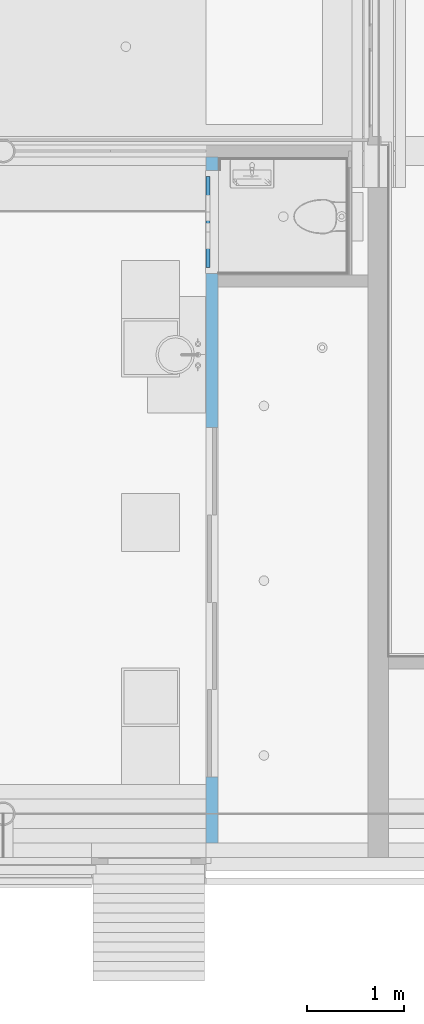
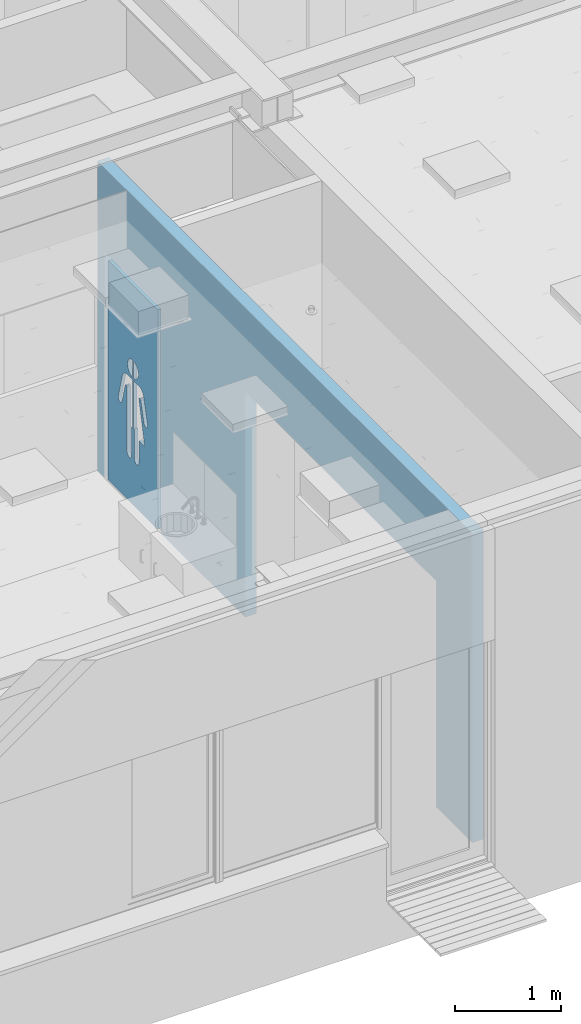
# One storey, part 44 of 347: 1 building element part, 2 openings, 1 element without a shape of its own, plus 1 element that does not belong to this part.
"""IFC2X3 building model written with IfcOpenShell, lengths in millimetres."""

from ifc_helpers import new_model, entity, si_unit, converted_unit, derived_unit, money_unit, direction, frame, origin_with_axes, place, context, subcontext, project, spatial, faceted_brep, source, transform, mapped, material, type_object, element, fill, aggregate, save


model = new_model("IFC2X3")

# Units and contexts
model_context = context("Model", 3, precision=0.01, world=origin_with_axes(), true_north=direction((0.0, 1.0)))
plan_context = context("Plan", 3, precision=0.01, world=origin_with_axes(), true_north=direction((0.0, 1.0)))
body_context = subcontext(model_context, "Body", "Model", "MODEL_VIEW")
ifc_project = project(units=[si_unit("LENGTHUNIT", "METRE", prefix="MILLI"), si_unit("AREAUNIT", "SQUARE_METRE"), si_unit("VOLUMEUNIT", "CUBIC_METRE"), converted_unit("PLANEANGLEUNIT", "DEGREE", entity("IfcPlaneAngleMeasure", 0.0174532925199), si_unit("PLANEANGLEUNIT", "RADIAN"), dimensions=[0, 0, 0, 0, 0, 0, 0]), money_unit("EUR"), converted_unit("TIMEUNIT", "Year", entity("IfcTimeMeasure", 31556926.0), si_unit("TIMEUNIT", "SECOND"), dimensions=[0, 0, 1, 0, 0, 0, 0]), si_unit("MASSUNIT", "GRAM", prefix="KILO"), si_unit("THERMODYNAMICTEMPERATUREUNIT", "DEGREE_CELSIUS"), si_unit("LUMINOUSINTENSITYUNIT", "LUMEN"), si_unit("ENERGYUNIT", "JOULE", prefix="MEGA"), derived_unit("THERMALCONDUCTANCEUNIT", [(si_unit("POWERUNIT", "WATT"), 1), (si_unit("LENGTHUNIT", "METRE"), -1), (si_unit("THERMODYNAMICTEMPERATUREUNIT", "KELVIN"), -1)]), derived_unit("SPECIFICHEATCAPACITYUNIT", [(si_unit("ENERGYUNIT", "JOULE"), 1), (si_unit("MASSUNIT", "GRAM", prefix="KILO"), -1), (si_unit("THERMODYNAMICTEMPERATUREUNIT", "KELVIN"), -1)]), derived_unit("MASSDENSITYUNIT", [(si_unit("MASSUNIT", "GRAM", prefix="KILO"), 1), (si_unit("VOLUMEUNIT", "CUBIC_METRE"), -1)])], contexts=[model_context, plan_context])

# Site, building, storey
site_placement = place(None, origin_with_axes())
site = spatial("IfcSite", under=ifc_project, at=site_placement, Name="Site", CompositionType="ELEMENT")
building_placement = place(site_placement, origin_with_axes())
building = spatial("IfcBuilding", under=site, at=building_placement, Name="Naam gebouw", CompositionType="ELEMENT")
storey_placement = place(building_placement, origin_with_axes())
storey = spatial("IfcBuildingStorey", under=building, at=storey_placement, Name="begane grond", CompositionType="ELEMENT", Elevation=0.0)

# Wall, openings, door, building element part
ifc_material_1 = material(Name="ALG - LICHTE SCHEIDINGSWAND")
wall_type = type_object("IfcWallType", Name="ALG LSW 125 125", PredefinedType="NOTDEFINED")
wall_placement = place(storey_placement, frame((33825.0, 12125.0, 0.0), z_axis=(0.0, 0.0, 1.0), x_axis=(0.0, -1.0, 0.0)))
wall = element("IfcWall", 1, at=wall_placement, inside=storey, type_object=wall_type, material=ifc_material_1, Name="22_GF 125 ECO DGS/2.75.3A", context=body_context, shape_type="Brep", body=[
    faceted_brep([(6447.5, 125.0, 0.0), (6447.5, 125.0, 2600.0), (2847.5, 125.0, 2600.0), (2847.5, 125.0, 0.0), (1262.5, 125.0, 0.0), (1262.5, 125.0, 2600.0), (198.5, 125.0, 2600.0), (198.5, 125.0, 0.0), (62.5, 125.0, 0.0), (62.5, 125.0, 3560.0), (7125.00000245, 125.0, 3559.99997586), (7125.00000245, 125.0, 0.0), (6447.5, 0.0, 0.0), (6447.5, 0.0, 2600.0), (2847.5, 0.0, 2600.0), (2847.5, 0.0, 0.0), (1262.5, 0.0, 0.0), (1262.5, 0.0, 2600.0), (198.5, 0.0, 2600.0), (198.5, 0.0, 0.0), (62.5, 0.0, 0.0), (62.5, 0.0, 3560.0), (7125.00000221, 0.0, 3559.99997586), (7125.00000221, 0.0, 0.0)], [[[0, 1, 2, 3, 4, 5, 6, 7, 8, 9, 10, 11]], [[1, 0, 12, 13]], [[2, 1, 13, 14]], [[3, 2, 14, 15]], [[3, 15, 16, 4]], [[4, 16, 17, 5]], [[5, 17, 18, 6]], [[6, 18, 19, 7]], [[19, 20, 8, 7]], [[9, 8, 20, 21]], [[10, 9, 21, 22]], [[22, 23, 11, 10]], [[12, 0, 11, 23]], [[13, 12, 23, 22, 21, 20, 19, 18, 17, 16, 15, 14]]]),
])
opening_1_placement = place(wall_placement, frame((730.5, 0.0, 0.0), z_axis=(0.0, 0.0, 1.0), x_axis=(1.0, 0.0, 0.0)))
opening_1 = element("IfcOpeningElement", 2, at=opening_1_placement, cuts=wall, Name="32_02.05", context=body_context, shape_type="Brep", body=[
    faceted_brep([(-532.0, 125.0, 2600.0), (-532.0, 125.0, 0.0), (-532.0, -257.0, 0.0), (-532.0, -257.0, 2600.0), (532.0, 125.0, 2600.0), (532.0, 125.0, 0.0), (532.0, -257.0, 0.0), (532.0, -257.0, 2600.0)], [[[0, 1, 2, 3]], [[0, 4, 5, 1]], [[1, 5, 6, 2]], [[3, 2, 6, 7]], [[4, 0, 3, 7]], [[5, 4, 7, 6]]]),
])
opening_2_placement = place(wall_placement, frame((4647.5, 0.0, 0.0), z_axis=(0.0, 0.0, 1.0), x_axis=(1.0, 0.0, 0.0)))
element("IfcOpeningElement", 3, at=opening_2_placement, cuts=wall, Name="32_-", context=body_context, shape_type="Brep", body=[
    faceted_brep([(1800.0, 125.0, 0.0), (1800.0, 125.0, 2600.0), (1800.0, -250.0, 2600.0), (1800.0, -250.0, 0.0), (-1800.0, 125.0, 0.0), (-1800.0, 125.0, 2600.0), (-1800.0, -250.0, 2600.0), (-1800.0, -250.0, 0.0)], [[[0, 1, 2, 3]], [[0, 4, 5, 1]], [[1, 5, 6, 2]], [[3, 2, 6, 7]], [[4, 0, 3, 7]], [[5, 4, 7, 6]]]),
])
door_style = type_object("IfcDoorStyle", Name="D1 25", ConstructionType="NOTDEFINED", OperationType="SINGLE_SWING_RIGHT", ParameterTakesPrecedence=False, Sizeable=False)
door_placement = place(opening_1_placement, frame((532.0, 0.0, 0.0), z_axis=(0.0, 0.0, 1.0), x_axis=(-1.0, 0.0, 0.0)))
door = element("IfcDoor", 4, at=door_placement, inside=storey, type_object=door_style, Name="32_02.05", ObjectType="DOOR", OverallHeight=2600.0, OverallWidth=1064.0)
fill(opening_1, door)
ifc_material_2 = material(Name="Hout C")
shared_shape = source(origin_with_axes(), body_context, "Body", "Brep", [
    faceted_brep([(467.0, -10.0, 2535.0), (467.0, -50.0, 2535.0), (467.0, -50.0, 10.0), (467.0, -10.0, 10.0), (-467.0, -10.0, 2535.0), (-467.0, -50.0, 2535.0), (-467.0, -50.0, 10.0), (-10.0430200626, -50.0, 890.229090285), (-25.1075218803, -50.0, 890.229090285), (-25.1075218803, -50.0, 563.286854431), (-24.6932816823, -50.0, 559.546364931), (-25.1742831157, -50.0, 552.034934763), (-26.9501513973, -50.0, 544.721284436), (-29.9669276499, -50.0, 537.827635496), (-34.1329486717, -50.0, 531.563447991), (-39.3216320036, -50.0, 526.119056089), (-45.3753221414, -50.0, 521.659884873), (-52.1100807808, -50.0, 518.321424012), (-59.3212756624, -50.0, 516.205110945), (-66.7897983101, -50.0, 515.375248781), (-74.2887214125, -50.0, 515.857052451), (-81.5901940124, -50.0, 517.635882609), (-88.4723645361, -50.0, 520.657690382), (-94.7261217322, -50.0, 524.830659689), (-100.161448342, -50.0, 530.027996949), (-104.613194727, -50.0, 536.091783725), (-107.946096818, -50.0, 542.8377749), (-110.058886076, -50.0, 550.06099695), (-110.887366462, -50.0, 557.54197595), (-110.473126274, -50.0, 563.286854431), (-110.473126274, -50.0, 814.780876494), (-219.866038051, -50.0, 814.780876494), (-108.013455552, -50.0, 1292.61952191), (-108.785274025, -50.0, 1296.47224326), (-110.199691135, -50.0, 1299.82482097), (-112.173819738, -50.0, 1302.8804449), (-114.647676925, -50.0, 1305.54627145), (-117.546095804, -50.0, 1307.74130085), (-120.781009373, -50.0, 1309.39883823), (-124.254126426, -50.0, 1310.46852015), (-127.859918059, -50.0, 1310.91784487), (-131.488824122, -50.0, 1310.73315989), (-135.030582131, -50.0, 1309.92007677), (-138.377577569, -50.0, 1308.50330061), (-141.428113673, -50.0, 1306.52587948), (-144.089501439, -50.0, 1304.04789628), (-146.280875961, -50.0, 1301.14464328), (-147.935653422, -50.0, 1297.90433437), (-149.003554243, -50.0, 1294.42542469), (-149.227842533, -50.0, 1292.61952191), (-207.923578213, -50.0, 1073.19870027), (-208.719139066, -50.0, 1070.22315824), (-211.317762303, -50.0, 1064.63924071), (-214.844929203, -50.0, 1059.59215425), (-219.193468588, -50.0, 1055.235252), (-224.231252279, -50.0, 1051.70091623), (-229.805209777, -50.0, 1049.09653598), (-235.745979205, -50.0, 1047.50124399), (-241.873053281, -50.0, 1046.96351241), (-248.000263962, -50.0, 1047.49967995), (-253.941439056, -50.0, 1049.09345542), (-259.516058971, -50.0, 1051.69641276), (-264.554741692, -50.0, 1055.22946244), (-268.904389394, -50.0, 1059.58525451), (-272.432840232, -50.0, 1064.63144045), (-275.032884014, -50.0, 1070.21469446), (-276.625519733, -50.0, 1076.16537218), (-277.162355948, -50.0, 1082.30266527), (-276.62708117, -50.0, 1088.44009521), (-275.831520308, -50.0, 1091.41563724), (-201.58891637, -50.0, 1368.954906), (-199.31480372, -50.0, 1377.45616444), (-191.888136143, -50.0, 1393.40926659), (-181.808681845, -50.0, 1407.82822709), (-169.382699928, -50.0, 1420.27493311), (-154.98774758, -50.0, 1430.37119778), (-139.061208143, -50.0, 1437.81025123), (-122.087001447, -50.0, 1442.36606156), (-104.580882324, -50.0, 1443.51593625), (-10.0430200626, -50.0, 1443.51593625), (-10.0430200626, -50.0, 1669.35630499), (-10.0430200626, -50.0, 1469.16959144), (-18.7854730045, -50.0, 1470.04970729), (-35.6995917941, -50.0, 1474.82448312), (-51.5289965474, -50.0, 1482.46872393), (-65.7927188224, -50.0, 1492.75016333), (-78.0573626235, -50.0, 1505.35640498), (-87.9502729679, -50.0, 1519.90441461), (-95.1708587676, -50.0, 1535.9521583), (-99.4997261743, -50.0, 1553.01203348), (-100.430107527, -50.0, 1569.26294821), (-100.430107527, -50.0, 1578.06409863), (-97.3785895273, -50.0, 1595.39898096), (-91.368272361, -50.0, 1611.93973315), (-82.5817764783, -50.0, 1627.18377283), (-71.2860751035, -50.0, 1640.66791757), (-57.8243824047, -50.0, 1651.98245845), (-42.6057251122, -50.0, 1660.78360886), (-26.0925144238, -50.0, 1666.80395031), (10.0430200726, -50.0, 1669.35630499), (18.7854730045, -50.0, 1668.47618914), (35.6995917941, -50.0, 1663.7014133), (51.5289965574, -50.0, 1656.05717249), (65.7927188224, -50.0, 1645.77573309), (78.0573626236, -50.0, 1633.16949145), (87.9502729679, -50.0, 1618.62148182), (95.1708587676, -50.0, 1602.57373813), (99.4997261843, -50.0, 1585.51386294), (100.430107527, -50.0, 1569.26294821), (100.430107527, -50.0, 1560.4617978), (97.3785895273, -50.0, 1543.12691547), (91.368272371, -50.0, 1526.58616327), (82.5817764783, -50.0, 1511.34212359), (71.2860751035, -50.0, 1497.85797885), (57.8243824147, -50.0, 1486.54343798), (42.6057251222, -50.0, 1477.74228756), (26.0925144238, -50.0, 1471.72194611), (10.0430200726, -50.0, 1469.16959144), (276.62552127, -50.0, 1088.44895872), (277.162357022, -50.0, 1082.31166558), (276.627081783, -50.0, 1076.17423568), (275.035959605, -50.0, 1070.22315174), (272.437335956, -50.0, 1064.63923441), (268.910168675, -50.0, 1059.59214821), (264.561628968, -50.0, 1055.23524628), (259.523845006, -50.0, 1051.70091091), (253.949887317, -50.0, 1049.09653107), (248.009117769, -50.0, 1047.50123953), (241.882043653, -50.0, 1046.96350842), (235.754833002, -50.0, 1047.49967641), (229.813658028, -50.0, 1049.09345233), (224.239038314, -50.0, 1051.6964101), (219.200355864, -50.0, 1055.22946015), (214.850708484, -50.0, 1059.58525256), (211.322258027, -50.0, 1064.63143877), (208.722214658, -50.0, 1070.21469297), (207.923578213, -50.0, 1073.19870026), (149.011836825, -50.0, 1292.61952191), (148.349375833, -50.0, 1295.95494878), (147.047948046, -50.0, 1299.10211348), (145.220702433, -50.0, 1301.97509819), (142.923158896, -50.0, 1304.48660874), (140.225127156, -50.0, 1306.56033414), (137.208585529, -50.0, 1308.13326528), (133.965190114, -50.0, 1309.15760948), (130.593489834, -50.0, 1309.60224253), (127.195932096, -50.0, 1309.45365449), (123.875749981, -50.0, 1308.71636013), (120.733825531, -50.0, 1307.41276178), (117.865624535, -50.0, 1305.58246859), (115.358295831, -50.0, 1303.2810931), (113.288023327, -50.0, 1300.57856146), (111.717711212, -50.0, 1297.5569887), (110.695072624, -50.0, 1294.3081838), (110.473126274, -50.0, 1292.61952191), (110.473126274, -50.0, 563.286854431), (110.887366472, -50.0, 559.546364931), (110.406365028, -50.0, 552.034934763), (108.630496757, -50.0, 544.721284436), (105.613720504, -50.0, 537.827635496), (101.447699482, -50.0, 531.563447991), (96.2590161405, -50.0, 526.119056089), (90.2053260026, -50.0, 521.659884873), (83.4705673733, -50.0, 518.321424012), (76.2593724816, -50.0, 516.205110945), (68.790849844, -50.0, 515.375248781), (61.2919267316, -50.0, 515.857052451), (53.9904541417, -50.0, 517.635882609), (47.1082836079, -50.0, 520.657690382), (40.8545264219, -50.0, 524.830659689), (35.4191998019, -50.0, 530.027996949), (30.9674534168, -50.0, 536.091783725), (27.6345513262, -50.0, 542.8377749), (25.5217620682, -50.0, 550.06099695), (24.6932816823, -50.0, 557.54197595), (25.1075218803, -50.0, 563.286854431), (25.1075218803, -50.0, 890.229090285), (10.0430200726, -50.0, 890.229090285), (10.0430200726, -50.0, 1443.51593625), (104.580882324, -50.0, 1443.51593625), (113.367378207, -50.0, 1443.51593625), (130.673396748, -50.0, 1440.4593288), (147.186607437, -50.0, 1434.43898735), (162.405264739, -50.0, 1425.63783693), (175.866957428, -50.0, 1414.32329606), (187.162658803, -50.0, 1400.83915132), (195.949154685, -50.0, 1385.59511164), (201.58891637, -50.0, 1368.954906), (-467.0, -10.0, 10.0), (-10.0430200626, -10.0, 890.229090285), (-10.0430200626, -10.0, 1443.51593625), (-104.580882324, -10.0, 1443.51593625), (-122.087001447, -10.0, 1442.36606156), (-139.061208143, -10.0, 1437.81025123), (-154.98774758, -10.0, 1430.37119778), (-169.382699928, -10.0, 1420.27493311), (-181.808681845, -10.0, 1407.82822709), (-191.888136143, -10.0, 1393.40926659), (-199.31480372, -10.0, 1377.45616444), (-201.58891637, -10.0, 1368.954906), (-275.831520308, -10.0, 1091.41563724), (-276.62708117, -10.0, 1088.44009521), (-277.162355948, -10.0, 1082.30266527), (-276.625519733, -10.0, 1076.16537218), (-275.032884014, -10.0, 1070.21469446), (-272.432840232, -10.0, 1064.63144045), (-268.904389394, -10.0, 1059.58525451), (-264.554741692, -10.0, 1055.22946244), (-259.516058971, -10.0, 1051.69641276), (-253.941439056, -10.0, 1049.09345542), (-248.000263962, -10.0, 1047.49967995), (-241.873053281, -10.0, 1046.96351241), (-235.745979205, -10.0, 1047.50124399), (-229.805209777, -10.0, 1049.09653598), (-224.231252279, -10.0, 1051.70091623), (-219.193468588, -10.0, 1055.235252), (-214.844929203, -10.0, 1059.59215425), (-211.317762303, -10.0, 1064.63924071), (-208.719139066, -10.0, 1070.22315824), (-207.923578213, -10.0, 1073.19870027), (-149.227842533, -10.0, 1292.61952191), (-149.003554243, -10.0, 1294.42542469), (-147.935653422, -10.0, 1297.90433437), (-146.280875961, -10.0, 1301.14464328), (-144.089501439, -10.0, 1304.04789628), (-141.428113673, -10.0, 1306.52587948), (-138.377577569, -10.0, 1308.50330061), (-135.030582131, -10.0, 1309.92007677), (-131.488824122, -10.0, 1310.73315989), (-127.859918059, -10.0, 1310.91784487), (-124.254126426, -10.0, 1310.46852015), (-120.781009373, -10.0, 1309.39883823), (-117.546095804, -10.0, 1307.74130085), (-114.647676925, -10.0, 1305.54627145), (-112.173819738, -10.0, 1302.8804449), (-110.199691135, -10.0, 1299.82482097), (-108.785274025, -10.0, 1296.47224326), (-108.013455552, -10.0, 1292.61952191), (-219.866038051, -10.0, 814.780876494), (-110.473126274, -10.0, 814.780876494), (-110.473126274, -10.0, 563.286854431), (-110.887366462, -10.0, 557.54197595), (-110.058886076, -10.0, 550.06099695), (-107.946096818, -10.0, 542.8377749), (-104.613194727, -10.0, 536.091783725), (-100.161448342, -10.0, 530.027996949), (-94.7261217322, -10.0, 524.830659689), (-88.4723645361, -10.0, 520.657690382), (-81.5901940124, -10.0, 517.635882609), (-74.2887214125, -10.0, 515.857052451), (-66.7897983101, -10.0, 515.375248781), (-59.3212756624, -10.0, 516.205110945), (-52.1100807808, -10.0, 518.321424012), (-45.3753221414, -10.0, 521.659884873), (-39.3216320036, -10.0, 526.119056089), (-34.1329486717, -10.0, 531.563447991), (-29.9669276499, -10.0, 537.827635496), (-26.9501513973, -10.0, 544.721284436), (-25.1742831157, -10.0, 552.034934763), (-24.6932816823, -10.0, 559.546364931), (-25.1075218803, -10.0, 563.286854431), (-25.1075218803, -10.0, 890.229090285), (-10.0430200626, -10.0, 1669.35630499), (-26.0925144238, -10.0, 1666.80395031), (-42.6057251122, -10.0, 1660.78360886), (-57.8243824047, -10.0, 1651.98245845), (-71.2860751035, -10.0, 1640.66791757), (-82.5817764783, -10.0, 1627.18377283), (-91.368272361, -10.0, 1611.93973315), (-97.3785895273, -10.0, 1595.39898096), (-100.430107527, -10.0, 1578.06409863), (-100.430107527, -10.0, 1569.26294821), (-99.4997261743, -10.0, 1553.01203348), (-95.1708587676, -10.0, 1535.9521583), (-87.9502729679, -10.0, 1519.90441461), (-78.0573626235, -10.0, 1505.35640498), (-65.7927188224, -10.0, 1492.75016333), (-51.5289965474, -10.0, 1482.46872393), (-35.6995917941, -10.0, 1474.82448312), (-18.7854730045, -10.0, 1470.04970729), (-10.0430200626, -10.0, 1469.16959144), (10.0430200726, -10.0, 1669.35630499), (10.0430200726, -10.0, 1469.16959144), (26.0925144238, -10.0, 1471.72194611), (42.6057251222, -10.0, 1477.74228756), (57.8243824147, -10.0, 1486.54343798), (71.2860751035, -10.0, 1497.85797885), (82.5817764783, -10.0, 1511.34212359), (91.368272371, -10.0, 1526.58616327), (97.3785895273, -10.0, 1543.12691547), (100.430107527, -10.0, 1560.4617978), (100.430107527, -10.0, 1569.26294821), (99.4997261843, -10.0, 1585.51386294), (95.1708587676, -10.0, 1602.57373813), (87.9502729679, -10.0, 1618.62148182), (78.0573626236, -10.0, 1633.16949145), (65.7927188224, -10.0, 1645.77573309), (51.5289965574, -10.0, 1656.05717249), (35.6995917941, -10.0, 1663.7014133), (18.7854730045, -10.0, 1668.47618914), (276.62552127, -10.0, 1088.44895872), (201.58891637, -10.0, 1368.954906), (195.949154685, -10.0, 1385.59511164), (187.162658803, -10.0, 1400.83915132), (175.866957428, -10.0, 1414.32329606), (162.405264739, -10.0, 1425.63783693), (147.186607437, -10.0, 1434.43898735), (130.673396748, -10.0, 1440.4593288), (113.367378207, -10.0, 1443.51593625), (104.580882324, -10.0, 1443.51593625), (10.0430200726, -10.0, 1443.51593625), (10.0430200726, -10.0, 890.229090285), (25.1075218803, -10.0, 890.229090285), (25.1075218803, -10.0, 563.286854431), (24.6932816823, -10.0, 557.54197595), (25.5217620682, -10.0, 550.06099695), (27.6345513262, -10.0, 542.8377749), (30.9674534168, -10.0, 536.091783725), (35.4191998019, -10.0, 530.027996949), (40.8545264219, -10.0, 524.830659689), (47.1082836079, -10.0, 520.657690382), (53.9904541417, -10.0, 517.635882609), (61.2919267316, -10.0, 515.857052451), (68.790849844, -10.0, 515.375248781), (76.2593724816, -10.0, 516.205110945), (83.4705673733, -10.0, 518.321424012), (90.2053260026, -10.0, 521.659884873), (96.2590161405, -10.0, 526.119056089), (101.447699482, -10.0, 531.563447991), (105.613720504, -10.0, 537.827635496), (108.630496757, -10.0, 544.721284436), (110.406365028, -10.0, 552.034934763), (110.887366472, -10.0, 559.546364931), (110.473126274, -10.0, 563.286854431), (110.473126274, -10.0, 1292.61952191), (110.695072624, -10.0, 1294.3081838), (111.717711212, -10.0, 1297.5569887), (113.288023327, -10.0, 1300.57856146), (115.358295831, -10.0, 1303.2810931), (117.865624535, -10.0, 1305.58246859), (120.733825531, -10.0, 1307.41276178), (123.875749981, -10.0, 1308.71636013), (127.195932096, -10.0, 1309.45365449), (130.593489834, -10.0, 1309.60224253), (133.965190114, -10.0, 1309.15760948), (137.208585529, -10.0, 1308.13326528), (140.225127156, -10.0, 1306.56033414), (142.923158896, -10.0, 1304.48660874), (145.220702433, -10.0, 1301.97509819), (147.047948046, -10.0, 1299.10211348), (148.349375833, -10.0, 1295.95494878), (149.011836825, -10.0, 1292.61952191), (207.923578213, -10.0, 1073.19870026), (208.722214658, -10.0, 1070.21469297), (211.322258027, -10.0, 1064.63143877), (214.850708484, -10.0, 1059.58525256), (219.200355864, -10.0, 1055.22946015), (224.239038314, -10.0, 1051.6964101), (229.813658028, -10.0, 1049.09345233), (235.754833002, -10.0, 1047.49967641), (241.882043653, -10.0, 1046.96350842), (248.009117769, -10.0, 1047.50123953), (253.949887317, -10.0, 1049.09653107), (259.523845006, -10.0, 1051.70091091), (264.561628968, -10.0, 1055.23524628), (268.910168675, -10.0, 1059.59214821), (272.437335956, -10.0, 1064.63923441), (275.035959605, -10.0, 1070.22315174), (276.627081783, -10.0, 1076.17423568), (277.162357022, -10.0, 1082.31166558)], [[[0, 1, 2, 3]], [[4, 5, 1, 0]], [[1, 5, 6, 2], [7, 8, 9, 10, 11, 12, 13, 14, 15, 16, 17, 18, 19, 20, 21, 22, 23, 24, 25, 26, 27, 28, 29, 30, 31, 32, 33, 34, 35, 36, 37, 38, 39, 40, 41, 42, 43, 44, 45, 46, 47, 48, 49, 50, 51, 52, 53, 54, 55, 56, 57, 58, 59, 60, 61, 62, 63, 64, 65, 66, 67, 68, 69, 70, 71, 72, 73, 74, 75, 76, 77, 78, 79], [80, 81, 82, 83, 84, 85, 86, 87, 88, 89, 90, 91, 92, 93, 94, 95, 96, 97, 98], [99, 100, 101, 102, 103, 104, 105, 106, 107, 108, 109, 110, 111, 112, 113, 114, 115, 116, 117], [118, 119, 120, 121, 122, 123, 124, 125, 126, 127, 128, 129, 130, 131, 132, 133, 134, 135, 136, 137, 138, 139, 140, 141, 142, 143, 144, 145, 146, 147, 148, 149, 150, 151, 152, 153, 154, 155, 156, 157, 158, 159, 160, 161, 162, 163, 164, 165, 166, 167, 168, 169, 170, 171, 172, 173, 174, 175, 176, 177, 178, 179, 180, 181, 182, 183, 184, 185, 186, 187]], [[3, 2, 6, 188]], [[0, 3, 188, 4], [189, 190, 191, 192, 193, 194, 195, 196, 197, 198, 199, 200, 201, 202, 203, 204, 205, 206, 207, 208, 209, 210, 211, 212, 213, 214, 215, 216, 217, 218, 219, 220, 221, 222, 223, 224, 225, 226, 227, 228, 229, 230, 231, 232, 233, 234, 235, 236, 237, 238, 239, 240, 241, 242, 243, 244, 245, 246, 247, 248, 249, 250, 251, 252, 253, 254, 255, 256, 257, 258, 259, 260, 261], [262, 263, 264, 265, 266, 267, 268, 269, 270, 271, 272, 273, 274, 275, 276, 277, 278, 279, 280], [281, 282, 283, 284, 285, 286, 287, 288, 289, 290, 291, 292, 293, 294, 295, 296, 297, 298, 299], [300, 301, 302, 303, 304, 305, 306, 307, 308, 309, 310, 311, 312, 313, 314, 315, 316, 317, 318, 319, 320, 321, 322, 323, 324, 325, 326, 327, 328, 329, 330, 331, 332, 333, 334, 335, 336, 337, 338, 339, 340, 341, 342, 343, 344, 345, 346, 347, 348, 349, 350, 351, 352, 353, 354, 355, 356, 357, 358, 359, 360, 361, 362, 363, 364, 365, 366, 367, 368, 369]], [[188, 6, 5, 4]], [[261, 8, 7, 189]], [[260, 9, 8, 261]], [[259, 10, 9, 260]], [[258, 11, 10, 259]], [[257, 12, 11, 258]], [[256, 13, 12, 257]], [[255, 14, 13, 256]], [[254, 15, 14, 255]], [[253, 16, 15, 254]], [[252, 17, 16, 253]], [[251, 18, 17, 252]], [[250, 19, 18, 251]], [[249, 20, 19, 250]], [[248, 21, 20, 249]], [[247, 22, 21, 248]], [[246, 23, 22, 247]], [[245, 24, 23, 246]], [[244, 25, 24, 245]], [[243, 26, 25, 244]], [[242, 27, 26, 243]], [[241, 28, 27, 242]], [[240, 29, 28, 241]], [[239, 30, 29, 240]], [[238, 31, 30, 239]], [[237, 32, 31, 238]], [[236, 33, 32, 237]], [[235, 34, 33, 236]], [[234, 35, 34, 235]], [[233, 36, 35, 234]], [[232, 37, 36, 233]], [[231, 38, 37, 232]], [[230, 39, 38, 231]], [[229, 40, 39, 230]], [[228, 41, 40, 229]], [[227, 42, 41, 228]], [[226, 43, 42, 227]], [[225, 44, 43, 226]], [[224, 45, 44, 225]], [[223, 46, 45, 224]], [[222, 47, 46, 223]], [[221, 48, 47, 222]], [[220, 49, 48, 221]], [[219, 50, 49, 220]], [[218, 51, 50, 219]], [[217, 52, 51, 218]], [[216, 53, 52, 217]], [[215, 54, 53, 216]], [[214, 55, 54, 215]], [[213, 56, 55, 214]], [[212, 57, 56, 213]], [[211, 58, 57, 212]], [[210, 59, 58, 211]], [[209, 60, 59, 210]], [[208, 61, 60, 209]], [[207, 62, 61, 208]], [[206, 63, 62, 207]], [[205, 64, 63, 206]], [[204, 65, 64, 205]], [[203, 66, 65, 204]], [[202, 67, 66, 203]], [[201, 68, 67, 202]], [[200, 69, 68, 201]], [[199, 70, 69, 200]], [[198, 71, 70, 199]], [[197, 72, 71, 198]], [[196, 73, 72, 197]], [[195, 74, 73, 196]], [[194, 75, 74, 195]], [[193, 76, 75, 194]], [[192, 77, 76, 193]], [[191, 78, 77, 192]], [[190, 79, 78, 191]], [[189, 7, 79, 190]], [[280, 81, 80, 262]], [[279, 82, 81, 280]], [[278, 83, 82, 279]], [[277, 84, 83, 278]], [[276, 85, 84, 277]], [[275, 86, 85, 276]], [[274, 87, 86, 275]], [[273, 88, 87, 274]], [[272, 89, 88, 273]], [[271, 90, 89, 272]], [[270, 91, 90, 271]], [[269, 92, 91, 270]], [[268, 93, 92, 269]], [[267, 94, 93, 268]], [[266, 95, 94, 267]], [[265, 96, 95, 266]], [[264, 97, 96, 265]], [[263, 98, 97, 264]], [[262, 80, 98, 263]], [[299, 100, 99, 281]], [[298, 101, 100, 299]], [[297, 102, 101, 298]], [[296, 103, 102, 297]], [[295, 104, 103, 296]], [[294, 105, 104, 295]], [[293, 106, 105, 294]], [[292, 107, 106, 293]], [[291, 108, 107, 292]], [[290, 109, 108, 291]], [[289, 110, 109, 290]], [[288, 111, 110, 289]], [[287, 112, 111, 288]], [[286, 113, 112, 287]], [[285, 114, 113, 286]], [[284, 115, 114, 285]], [[283, 116, 115, 284]], [[282, 117, 116, 283]], [[281, 99, 117, 282]], [[369, 119, 118, 300]], [[368, 120, 119, 369]], [[367, 121, 120, 368]], [[366, 122, 121, 367]], [[365, 123, 122, 366]], [[364, 124, 123, 365]], [[363, 125, 124, 364]], [[362, 126, 125, 363]], [[361, 127, 126, 362]], [[360, 128, 127, 361]], [[359, 129, 128, 360]], [[358, 130, 129, 359]], [[357, 131, 130, 358]], [[356, 132, 131, 357]], [[355, 133, 132, 356]], [[354, 134, 133, 355]], [[353, 135, 134, 354]], [[352, 136, 135, 353]], [[351, 137, 136, 352]], [[350, 138, 137, 351]], [[349, 139, 138, 350]], [[348, 140, 139, 349]], [[347, 141, 140, 348]], [[346, 142, 141, 347]], [[345, 143, 142, 346]], [[344, 144, 143, 345]], [[343, 145, 144, 344]], [[342, 146, 145, 343]], [[341, 147, 146, 342]], [[340, 148, 147, 341]], [[339, 149, 148, 340]], [[338, 150, 149, 339]], [[337, 151, 150, 338]], [[336, 152, 151, 337]], [[335, 153, 152, 336]], [[334, 154, 153, 335]], [[333, 155, 154, 334]], [[332, 156, 155, 333]], [[331, 157, 156, 332]], [[330, 158, 157, 331]], [[329, 159, 158, 330]], [[328, 160, 159, 329]], [[327, 161, 160, 328]], [[326, 162, 161, 327]], [[325, 163, 162, 326]], [[324, 164, 163, 325]], [[323, 165, 164, 324]], [[322, 166, 165, 323]], [[321, 167, 166, 322]], [[320, 168, 167, 321]], [[319, 169, 168, 320]], [[318, 170, 169, 319]], [[317, 171, 170, 318]], [[316, 172, 171, 317]], [[315, 173, 172, 316]], [[314, 174, 173, 315]], [[313, 175, 174, 314]], [[312, 176, 175, 313]], [[311, 177, 176, 312]], [[310, 178, 177, 311]], [[309, 179, 178, 310]], [[308, 180, 179, 309]], [[307, 181, 180, 308]], [[306, 182, 181, 307]], [[305, 183, 182, 306]], [[304, 184, 183, 305]], [[303, 185, 184, 304]], [[302, 186, 185, 303]], [[301, 187, 186, 302]], [[300, 118, 187, 301]]]),
])
building_element_part_placement = place(door_placement, origin_with_axes())
building_element_part = element("IfcBuildingElementPart", 5, at=building_element_part_placement, material=ifc_material_2, Name="Hout C", context=body_context, shape_type="MappedRepresentation", body=[
    mapped(shared_shape, transform((532.0, 7.0, 0.0))),
])
aggregate(door, [building_element_part])

save(model, "model.ifc")
